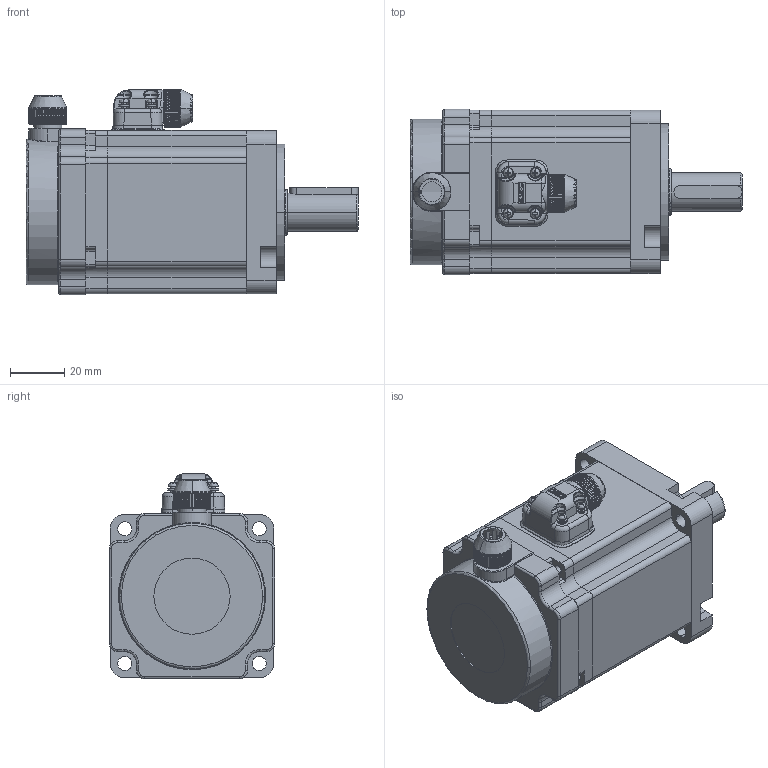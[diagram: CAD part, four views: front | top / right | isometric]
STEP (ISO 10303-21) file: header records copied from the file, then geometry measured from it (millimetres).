
FILE_DESCRIPTION((''),'2;1');
FILE_NAME('_60C-200W__ASM_ASM','2020-08-12T',('PCBD'),(''),'PRO/ENGINEER BY PARAMETRIC TECHNOLOGY CORPORATION, 2010280','PRO/ENGINEER BY PARAMETRIC TECHNOLOGY CORPORATION, 2010280','');
FILE_SCHEMA(('CONFIG_CONTROL_DESIGN'));
Products named in the file (26): 60C3-JK_2; 60C--QG_1; 60C-HG_1; PRT0005_4; PRT0137_1; PRT0138_1; PRT0139_1; PRT0140_1; PRT0141_1; PRT0142_1; PRT0143_1; PRT0144_1; PRT0145_1; PRT0146_1; PRT0147_1; ASM0039_ASM_1_ASM_ASM; PRT0148_1; PRT0149_1; PRT0150_1; PRT0151_1; ASM0038_ASM_1_ASM_ASM; 60S-HZ-YF-2_9; 600C-400W_ASM_1_ASM_ASM; LUOMU_1; KEY060; _60C-200W__ASM_ASM
Assembly tree (46 placements, depth 5):
  _60C-200W__ASM_ASM
    600C-400W_ASM_1_ASM_ASM
      60C3-JK_2
      60C--QG_1
      60C-HG_1
      PRT0005_4
      ASM0038_ASM_1_ASM_ASM
        PRT0137_1
        PRT0138_1
        PRT0139_1
        PRT0140_1
        PRT0141_1
        PRT0142_1
        PRT0143_1
        PRT0144_1  x4
        ASM0039_ASM_1_ASM_ASM  x4
          PRT0145_1
          PRT0146_1
          PRT0147_1
        PRT0148_1
        PRT0149_1
        PRT0150_1  x8
        PRT0151_1  x9
      60S-HZ-YF-2_9
    LUOMU_1
    KEY060
Bounding box: 122 x 60.8 x 75.6 mm (x, y, z)
Volume: 126371.2 mm3; surface area: 82858 mm2
Topology: 49 solids, 49 shells, 6055 faces, 14959 edges, 8891 vertices
Faces by surface type: plane 3185, cylinder 1163, bspline 937, cone 436, sphere 156, torus 135, extrusion 34, revolution 9
Entity records: 139688 total; most frequent: CARTESIAN_POINT 53628, ORIENTED_EDGE 18724, DIRECTION 16301, EDGE_CURVE 9362, VERTEX_POINT 5809, VECTOR 5720, LINE 5700, AXIS2_PLACEMENT_3D 5290
